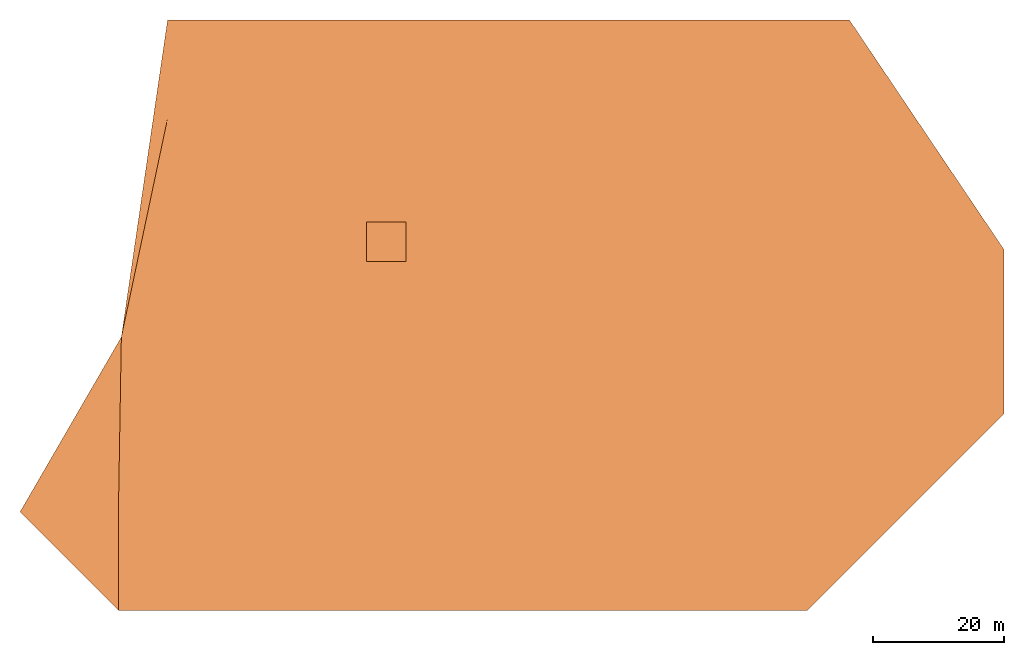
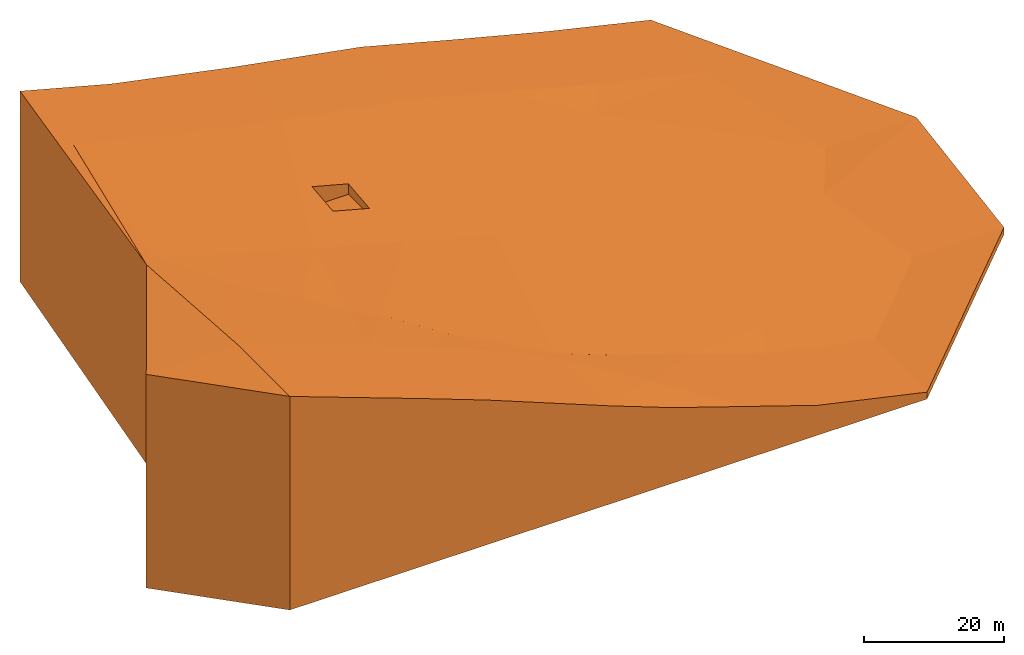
# One storey: 1 proxy, 1 opening.
"""IFC2X3 building model written with IfcOpenShell, lengths in metres."""

import ifcopenshell
import ifcopenshell.guid

model = None  # the IFC model being written
_history = None  # IfcOwnerHistory: only IFC2X3 demands one
_inside = {}  # id of a spatial element -> (the spatial element, [elements in it])
_under = {}  # id of a project, library or spatial element -> (it, [spatial elements below it])
_declared = {}  # id of a project -> (the project, [libraries it declares])
_typed = {}  # id of a type object -> (the type object, [elements of that type])
_made_of = {}  # id of a material, layer set ... -> (it, [elements and type objects made of it])


def new_model(schema):
    """Start an empty IFC model of exactly this schema.

    Asked for "IFC4X3", IfcOpenShell would pick the latest addendum, in which some entities
    have other attributes; the version numbers below select the first issue.
    IFC2X3 requires an IfcOwnerHistory on every rooted entity: one is made here for all.
    """
    global model, _history
    if schema == "IFC4X3":
        model = ifcopenshell.file(schema_version=(4, 3, 0, 0))
    else:
        model = ifcopenshell.file(schema=schema)
    _inside.clear()
    _under.clear()
    _declared.clear()
    _typed.clear()
    _made_of.clear()
    _history = None
    if model.schema == "IFC2X3":
        org = make("IfcOrganization", Name="unknown")
        user = make(
            "IfcPersonAndOrganization",
            ThePerson=make("IfcPerson", FamilyName="unknown"),
            TheOrganization=org,
        )
        app = make(
            "IfcApplication",
            ApplicationDeveloper=org,
            Version="unknown",
            ApplicationFullName="unknown",
            ApplicationIdentifier="unknown",
        )
        _history = make(
            "IfcOwnerHistory",
            OwningUser=user,
            OwningApplication=app,
            ChangeAction="ADDED",
            CreationDate=0,
        )
    return model


def make(cls, **values):
    """One entity of the class cls with the attributes given. An attribute that is None is left unset."""
    return model.create_entity(
        cls, **{name: value for name, value in values.items() if value is not None}
    )


def entity(cls, *values):
    """Any entity or typed value of the class cls, its attributes in the order of the schema. None: left unset."""
    e = model.create_entity(cls)
    for i, value in enumerate(values):
        if value is not None:
            e[i] = value
    return e


def rooted(cls, **values):
    """An entity with a GlobalId (a new one), such as an element, a storey or a relation."""
    return make(cls, GlobalId=ifcopenshell.guid.new(), OwnerHistory=_history, **values)


def si_unit(unit_type, name, prefix=None):
    """IfcSIUnit, for example si_unit("LENGTHUNIT", "METRE", prefix="MILLI")."""
    return make("IfcSIUnit", UnitType=unit_type, Prefix=prefix, Name=name)


def converted_unit(unit_type, name, factor, base, dimensions=None, offset=None):
    """IfcConversionBasedUnit, such as the inch: factor (a typed value) times the base unit."""
    return make(
        "IfcConversionBasedUnit"
        if offset is None
        else "IfcConversionBasedUnitWithOffset",
        ConversionOffset=offset,
        Dimensions=None
        if dimensions is None
        else entity("IfcDimensionalExponents", *dimensions),
        UnitType=unit_type,
        Name=name,
        ConversionFactor=make(
            "IfcMeasureWithUnit", ValueComponent=factor, UnitComponent=base
        ),
    )


def derived_unit(unit_type, elements):
    """IfcDerivedUnit: a product of units, each with its exponent."""
    return make(
        "IfcDerivedUnit",
        Elements=[
            make("IfcDerivedUnitElement", Unit=unit, Exponent=power)
            for unit, power in elements
        ],
        UnitType=unit_type,
    )


def assignment(units):
    """IfcUnitAssignment: the units of a project."""
    return None if units is None else make("IfcUnitAssignment", Units=units)


def point(xyz):
    """IfcCartesianPoint."""
    return None if xyz is None else make("IfcCartesianPoint", Coordinates=xyz)


def direction(xyz):
    """IfcDirection."""
    return None if xyz is None else make("IfcDirection", DirectionRatios=xyz)


def frame(location, z_axis=None, x_axis=None):
    """IfcAxis2Placement3D, a coordinate frame: its origin and axes. An axis left out is left unset."""
    return make(
        "IfcAxis2Placement3D",
        Location=point(location),
        Axis=direction(z_axis),
        RefDirection=direction(x_axis),
    )


def frame_2d(location, x_axis=None):
    """IfcAxis2Placement2D, a coordinate frame in the plane: its origin and x axis."""
    return make(
        "IfcAxis2Placement2D", Location=point(location), RefDirection=direction(x_axis)
    )


def origin():
    """The frame at (0, 0, 0) with its axes left unset."""
    return frame((0.0, 0.0, 0.0))


def origin_2d_with_axis():
    """The frame at (0, 0) in the plane with the x axis (1, 0) written out."""
    return frame_2d((0.0, 0.0), x_axis=(1.0, 0.0))


def place(relative_to, where):
    """IfcLocalPlacement: puts the frame where relative to a parent placement (None: the world)."""
    return make(
        "IfcLocalPlacement", PlacementRelTo=relative_to, RelativePlacement=where
    )


def context(
    kind, dimensions, precision=None, world=None, true_north=None, identifier=None
):
    """IfcGeometricRepresentationContext, for example the 3D "Model" context."""
    return make(
        "IfcGeometricRepresentationContext",
        ContextIdentifier=identifier,
        ContextType=kind,
        CoordinateSpaceDimension=dimensions,
        Precision=precision,
        WorldCoordinateSystem=world,
        TrueNorth=true_north,
    )


def subcontext(parent, identifier, kind, view, scale=None):
    """IfcGeometricRepresentationSubContext, for example "Body" below "Model"."""
    return make(
        "IfcGeometricRepresentationSubContext",
        ContextIdentifier=identifier,
        ContextType=kind,
        ParentContext=parent,
        TargetScale=scale,
        TargetView=view,
    )


def project(units=None, contexts=None):
    """IfcProject with its units and contexts."""
    return rooted(
        "IfcProject",
        Name="project",
        RepresentationContexts=contexts,
        UnitsInContext=assignment(units),
    )


def spatial(cls, under=None, at=None, **own):
    """A site, building, storey or space (cls), placed at a placement, below another one or the project."""
    s = rooted(cls, ObjectPlacement=at, **own)
    if under is not None:
        _under.setdefault(under.id(), (under, []))[1].append(s)
    return s


def profile(cls, at=None, kind="AREA", **sizes):
    """A parametric profile (cls). Its sizes go by their IFC names, for example OverallWidth=200.0."""
    return make(cls, ProfileType=kind, Position=at, **sizes)


def rectangle(**sizes):
    """IfcRectangleProfileDef."""
    return profile("IfcRectangleProfileDef", **sizes)


def extrude(swept, where, along, depth):
    """IfcExtrudedAreaSolid: the profile swept, set in the frame where, extruded along a direction by depth."""
    return make(
        "IfcExtrudedAreaSolid",
        SweptArea=swept,
        Position=where,
        ExtrudedDirection=direction(along),
        Depth=depth,
    )


def faces_of(points, faces, orient=None, outer=None):
    """IfcFace entities. A face is a list of loops; a loop is a list of indices into points, from 0.

    orient and outer hold one flag for each loop. By default every Orientation is true, the
    first loop of a face is its IfcFaceOuterBound and the others are IfcFaceBound.
    """
    made = []
    for i, loops in enumerate(faces):
        bounds = []
        for j, loop in enumerate(loops):
            is_outer = j == 0 if outer is None else outer[i][j]
            bounds.append(
                make(
                    "IfcFaceOuterBound" if is_outer else "IfcFaceBound",
                    Bound=make("IfcPolyLoop", Polygon=[points[k] for k in loop]),
                    Orientation=True if orient is None else orient[i][j],
                )
            )
        made.append(make("IfcFace", Bounds=bounds))
    return made


def faceted_brep(points, faces, orient=None, outer=None, voids=None):
    """IfcFacetedBrep: a solid bounded by flat faces; with voids (closed shells), ...WithVoids."""
    shared = [point(p) for p in points]
    hull = make("IfcClosedShell", CfsFaces=faces_of(shared, faces, orient, outer))
    if voids is None:
        return make("IfcFacetedBrep", Outer=hull)
    return make(
        "IfcFacetedBrepWithVoids",
        Outer=hull,
        Voids=[
            make(cls, CfsFaces=faces_of(shared, fs, o, b)) for cls, fs, o, b in voids
        ],
    )


def shape(context_of_items, identifier, shape_type, items):
    """IfcShapeRepresentation: the items that make up one representation, for example the "Body"."""
    return make(
        "IfcShapeRepresentation",
        ContextOfItems=context_of_items,
        RepresentationIdentifier=identifier,
        RepresentationType=shape_type,
        Items=items,
    )


def material(Name=None, Category=None):
    """IfcMaterial."""
    return make("IfcMaterial", Name=Name, Category=Category)


def material_list(materials):
    """IfcMaterialList."""
    return make("IfcMaterialList", Materials=materials)


def made_of(thing, what):
    """Note that an element or type object is made of a material, layer set ...; save() writes the relation."""
    if what is not None:
        _made_of.setdefault(what.id(), (what, []))[1].append(thing)
    return thing


def type_object(cls, material=None, **own):
    """A type object (cls), such as IfcWallType, which elements share."""
    return made_of(rooted(cls, **own), material)


def element(
    cls,
    number,
    at=None,
    inside=None,
    cuts=None,
    type_object=None,
    material=None,
    context=None,
    identifier="Body",
    shape_type=None,
    held_by="IfcProductDefinitionShape",
    body=None,
    shapes=None,
    **own,
):
    """One element of the class cls, such as IfcWall. Its Tag is "e" and its number.

    at: its placement. inside: the storey or other place that contains it. cuts: it is an
    opening in that element (IfcRelVoidsElement). A single representation is given by context,
    identifier, shape_type and body (its items); several are given by shapes. held_by: the class
    of the entity that holds the representations. save() writes the other relations.
    """
    e = rooted(cls, Tag="e%d" % number, ObjectPlacement=at, **own)
    if body is not None:
        shapes = [shape(context, identifier, shape_type, body)]
    if shapes is not None:
        e.Representation = make(held_by, Representations=shapes)
    if inside is not None:
        _inside.setdefault(inside.id(), (inside, []))[1].append(e)
    if cuts is not None:
        rooted(
            "IfcRelVoidsElement", RelatingBuildingElement=cuts, RelatedOpeningElement=e
        )
    if type_object is not None:
        _typed.setdefault(type_object.id(), (type_object, []))[1].append(e)
    return made_of(e, material)


def aggregate(whole, parts):
    """IfcRelAggregates: a whole, such as a stair, and the parts it consists of."""
    return rooted("IfcRelAggregates", RelatingObject=whole, RelatedObjects=parts)


def save(model, path):
    """Write the relations noted so far, then the file.

    IfcRelAggregates (storeys below a building ...), IfcRelContainedInSpatialStructure (elements
    in a storey), IfcRelDefinesByType, IfcRelAssociatesMaterial and IfcRelDeclares: one each for
    every whole, place, type object, material and project.
    """
    for whole, parts in _under.values():
        aggregate(whole, parts)
    for where, things in _inside.values():
        rooted(
            "IfcRelContainedInSpatialStructure",
            RelatedElements=things,
            RelatingStructure=where,
        )
    for kind, things in _typed.values():
        rooted("IfcRelDefinesByType", RelatedObjects=things, RelatingType=kind)
    for what, things in _made_of.values():
        rooted("IfcRelAssociatesMaterial", RelatedObjects=things, RelatingMaterial=what)
    for by, libraries in _declared.values():
        rooted("IfcRelDeclares", RelatingContext=by, RelatedDefinitions=libraries)
    model.write(path)


model = new_model("IFC2X3")

# Units and contexts
model_context = context("Model", 3, precision=1e-05, world=origin(), true_north=direction((6.123233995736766e-17, 1.0)))
body_context = subcontext(model_context, "Body", "Model", "MODEL_VIEW")
ifc_project = project(units=[si_unit("LENGTHUNIT", "METRE"), si_unit("AREAUNIT", "SQUARE_METRE"), converted_unit("PLANEANGLEUNIT", "DEGREE", entity("IfcPlaneAngleMeasure", 0.017453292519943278), si_unit("PLANEANGLEUNIT", "RADIAN"), dimensions=[0, 0, 0, 0, 0, 0, 0]), derived_unit("THERMALTRANSMITTANCEUNIT", [(si_unit("MASSUNIT", "GRAM", prefix="KILO"), 1), (si_unit("THERMODYNAMICTEMPERATUREUNIT", "KELVIN"), -1), (si_unit("TIMEUNIT", "SECOND"), -3)])], contexts=[model_context])

# Site, building, storey
site_placement = place(None, origin())
site = spatial("IfcSite", under=ifc_project, at=site_placement, Name="Default", CompositionType="ELEMENT")
building_placement = place(site_placement, origin())
building = spatial("IfcBuilding", under=site, at=building_placement, CompositionType="ELEMENT")
storey_placement = place(building_placement, frame((0.0, 0.0, -25.8)))
storey = spatial("IfcBuildingStorey", under=building, at=storey_placement, Name="Soil", CompositionType="ELEMENT", Elevation=-25.8)

# Proxy, opening
ifc_material_1 = material(Name="Erba")
ifc_material_2 = material(Name="Sabbia")
ifc_material_3 = material(Name="Terra")
ifc_material_list = material_list([ifc_material_1, ifc_material_2, ifc_material_3])
building_element_proxy_type = type_object("IfcBuildingElementProxyType", Name="Toposolid:Prato - 1200 mm", PredefinedType="NOTDEFINED")
proxy_placement = place(storey_placement, origin())
proxy = element("IfcBuildingElementProxy", 1, at=proxy_placement, inside=storey, type_object=building_element_proxy_type, material=ifc_material_list, Name="Toposolid:Prato - 1200 mm", ObjectType="Toposolid:Prato - 1200 mm", context=body_context, shape_type="Brep", body=[
    faceted_brep([(64.79848703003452, -55.37240284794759, 1.7999999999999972), (-40.201512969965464, -55.37240284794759, 1.7999999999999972), (-55.20151296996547, -40.372402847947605, 1.7999999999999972), (-39.75161296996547, -13.706102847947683, 1.7999999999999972), (-32.70151296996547, 34.627597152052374, 1.7999999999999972), (71.22708703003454, 34.627597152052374, 1.7999999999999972), (94.79848703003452, -0.372402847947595, 1.7999999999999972), (94.79848703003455, -25.372402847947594, 1.7999999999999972), (64.79848703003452, -55.37240284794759, 3.0), (46.79848703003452, -55.372402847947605, 7.005599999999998), (34.79848703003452, -55.372402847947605, 11.0), (22.798487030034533, -55.372402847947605, 15.0), (12.298487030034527, -55.372402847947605, 19.0), (2.2984870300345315, -55.372402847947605, 23.0), (-7.701512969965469, -55.372402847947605, 27.0), (-18.383312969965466, -55.372402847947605, 31.0), (-29.29241296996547, -55.372402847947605, 35.0), (-40.201512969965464, -55.37240284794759, 39.0096), (-55.20151296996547, -40.372402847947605, 39.0096), (-39.75161296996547, -13.706102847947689, 36.52230000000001), (-32.70151296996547, 34.627597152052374, 35.0), (-17.70151296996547, 34.627597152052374, 31.0), (1.798487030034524, 34.627597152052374, 27.0), (23.54848703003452, 34.627597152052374, 23.0), (38.54848703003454, 34.627597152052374, 19.0), (54.08418703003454, 34.627597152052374, 15.0), (71.22708703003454, 34.62759715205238, 11.0), (94.79848703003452, -0.3724028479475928, 7.005600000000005), (94.79848703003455, -25.372402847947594, 3.0), (73.79368703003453, -10.372402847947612, 7.005600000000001), (-40.201512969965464, -40.372402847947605, 39.0096), (-29.29241296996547, -40.372402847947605, 35.0), (-18.383312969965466, -40.372402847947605, 31.0), (-27.203052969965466, -20.6992828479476, 32.34156), (-20.051546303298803, -24.219036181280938, 30.142633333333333), (-7.701512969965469, -40.372402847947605, 27.0), (-10.201512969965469, -29.475502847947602, 26.952799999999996), (2.2984870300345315, -40.372402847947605, 23.0), (10.442627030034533, -41.6788228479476, 19.8072), (4.798487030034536, -10.372402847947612, 23.0), (-2.101512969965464, -34.685642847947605, 23.98008), (0.8627203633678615, -35.87433618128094, 23.17473333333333), (12.298487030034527, -40.372402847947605, 19.0), (-14.654492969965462, -27.692462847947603, 28.16082), (-29.901579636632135, -18.962569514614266, 33.33246666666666), (-23.53481296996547, -10.372402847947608, 31.0), (-36.86821296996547, -10.372402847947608, 35.0), (-32.701512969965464, 19.627597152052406, 35.0), (-17.701512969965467, 19.6275971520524, 31.0), (-10.201512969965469, -10.372402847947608, 27.0), (19.79848703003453, -10.372402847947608, 19.0), (1.7984870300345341, 19.627597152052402, 27.0), (-2.381924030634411, -2.1979482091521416, 25.78671811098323), (-2.381924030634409, 3.8020517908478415, 26.426718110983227), (3.618075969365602, 3.8020517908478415, 24.826718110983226), (3.6180759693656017, -2.1979482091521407, 24.18671811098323), (23.548487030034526, 19.6275971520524, 23.0), (22.99118703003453, -48.6720028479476, 15.618599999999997), (34.798487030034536, -40.372402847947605, 11.0), (11.919287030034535, -42.27316951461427, 19.396666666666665), (22.798487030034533, -40.372402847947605, 15.0), (34.798487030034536, -10.372402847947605, 15.0), (46.79848703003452, -40.372402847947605, 7.005599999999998), (79.79848703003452, -25.372402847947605, 3.0), (64.79848703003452, -40.372402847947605, 3.0), (49.798487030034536, -34.372402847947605, 7.005600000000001), (49.798487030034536, -10.372402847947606, 11.0), (49.798487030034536, 13.627597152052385, 15.0), (38.54848703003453, 19.6275971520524, 19.0), (54.08418703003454, 19.6275971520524, 15.0), (79.79848703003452, -0.37240284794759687, 7.005600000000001), (71.22708703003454, 19.6275971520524, 11.0), (-2.38192403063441, 3.802051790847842, 23.0), (-2.3819240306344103, -2.197948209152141, 23.0), (3.6180759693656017, -2.197948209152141, 23.0), (3.6180759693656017, 3.802051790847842, 23.0)], [[[0, 1, 2, 3, 4, 5, 6, 7]], [[1, 0, 8, 9, 10, 11, 12, 13, 14, 15, 16, 17]], [[2, 1, 17, 18]], [[3, 2, 18, 19]], [[4, 3, 19, 20]], [[5, 4, 20, 21, 22, 23, 24, 25, 26]], [[6, 5, 26, 27]], [[7, 6, 27, 28]], [[0, 7, 28, 8]], [[28, 27, 29]], [[30, 17, 16, 31]], [[31, 16, 15, 32]], [[19, 18, 30]], [[18, 17, 30]], [[30, 31, 33]], [[31, 32, 34]], [[32, 15, 14, 35]], [[32, 35, 36]], [[35, 14, 13, 37]], [[38, 13, 12]], [[37, 13, 38]], [[39, 36, 40]], [[36, 35, 40]], [[37, 38, 41]], [[37, 41, 40]], [[35, 37, 40]], [[39, 40, 41]], [[39, 41, 42]], [[32, 36, 43]], [[19, 30, 44]], [[30, 33, 44]], [[44, 33, 45]], [[19, 44, 46]], [[19, 46, 47]], [[20, 47, 48, 21]], [[47, 46, 45]], [[44, 45, 46]], [[48, 47, 45]], [[45, 33, 34]], [[20, 19, 47]], [[34, 43, 49]], [[33, 31, 34]], [[49, 39, 50, 51], [52, 53, 54, 55]], [[43, 36, 49]], [[36, 39, 49]], [[48, 45, 49]], [[21, 48, 51, 22]], [[22, 51, 56, 23]], [[49, 51, 48]], [[45, 34, 49]], [[34, 32, 43]], [[41, 38, 42]], [[12, 11, 57]], [[58, 57, 10]], [[12, 57, 59]], [[39, 42, 50]], [[42, 59, 60]], [[61, 60, 58]], [[59, 57, 60]], [[57, 58, 60]], [[50, 42, 60]], [[57, 11, 10]], [[38, 12, 59]], [[58, 10, 9, 62]], [[8, 28, 63, 64]], [[62, 9, 8, 64]], [[58, 62, 65]], [[62, 64, 65]], [[63, 28, 29]], [[65, 64, 29]], [[61, 58, 65]], [[64, 63, 29]], [[60, 61, 50]], [[61, 65, 66]], [[50, 61, 66, 67, 68, 56]], [[23, 56, 68, 24]], [[24, 68, 69, 25]], [[51, 50, 56]], [[67, 29, 70]], [[67, 66, 29]], [[67, 70, 71]], [[70, 29, 27]], [[71, 70, 27]], [[25, 69, 71, 26]], [[27, 26, 71]], [[67, 71, 69]], [[68, 67, 69]], [[65, 29, 66]], [[42, 38, 59]], [[72, 73, 74, 75]], [[73, 72, 53, 52]], [[74, 73, 52, 55]], [[75, 74, 55, 54]], [[72, 75, 54, 53]]]),
])
opening_placement = place(proxy_placement, origin())
element("IfcOpeningElement", 2, at=opening_placement, cuts=proxy, Name="Toposolid:Prato - 1200 mm", ObjectType="Recess", context=body_context, shape_type="SweptSolid", body=[
    extrude(rectangle(XDim=5.999999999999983, YDim=6.0000000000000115, at=origin_2d_with_axis()), frame((0.6180759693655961, 0.8020517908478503, 23.0), z_axis=(0.0, 0.0, 1.0), x_axis=(0.0, -1.0, 0.0)), (0.0, 0.0, 1.0), 12.000000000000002),
])

save(model, "model.ifc")
